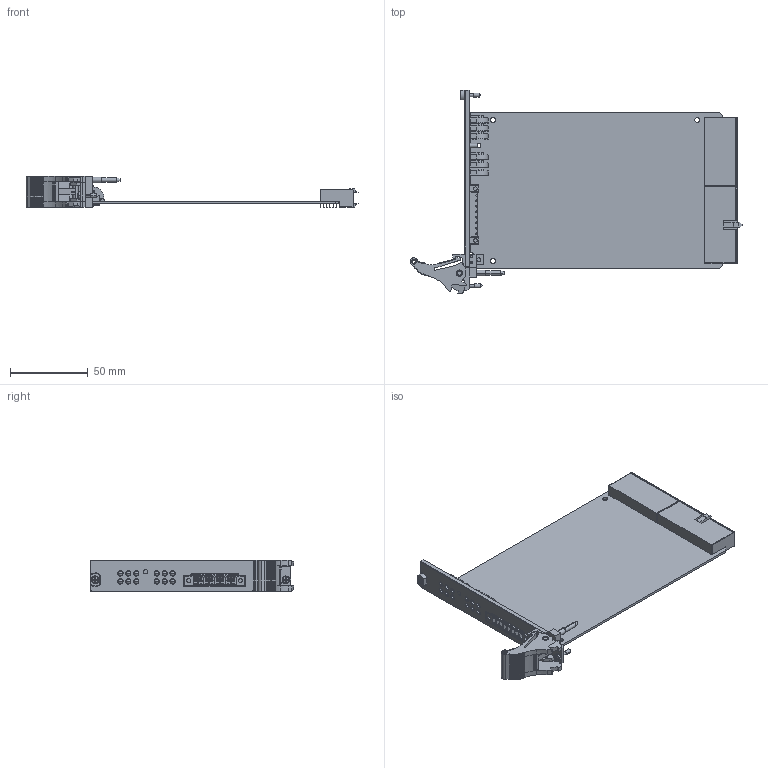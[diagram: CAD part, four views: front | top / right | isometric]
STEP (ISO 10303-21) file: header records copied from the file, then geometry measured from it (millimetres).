
FILE_DESCRIPTION((''),'2;1');
FILE_NAME('CU_PXI-8250_SW','2016-01-27T',('gvillanu'),(''),'PRO/ENGINEER BY PARAMETRIC TECHNOLOGY CORPORATION, 2015280','PRO/ENGINEER BY PARAMETRIC TECHNOLOGY CORPORATION, 2015280','');
FILE_SCHEMA(('CONFIG_CONTROL_DESIGN'));
Length unit declared in the file: inch
Products named in the file (1): CU_PXI-8250_SW
Bounding box: 213.12 x 130.55 x 20.19 mm (x, y, z)
Surface area: 59564.5 mm2 (no closed solid volume)
Topology: 0 solids, 100 shells, 1361 faces, 4561 edges, 3233 vertices
Faces by surface type: plane 886, cylinder 404, cone 32, sphere 30, bspline 5, torus 3, extrusion 1
Entity records: 52513 total; most frequent: CARTESIAN_POINT 12936, DIRECTION 8119, ORIENTED_EDGE 7511, EDGE_CURVE 4533, VERTEX_POINT 3233, VECTOR 3091, LINE 3090, AXIS2_PLACEMENT_3D 2514
